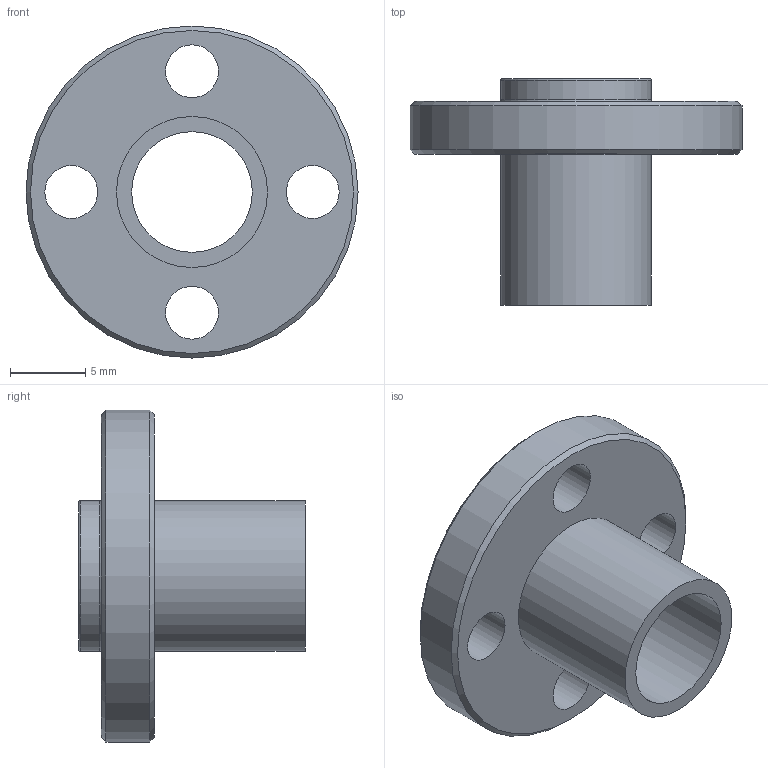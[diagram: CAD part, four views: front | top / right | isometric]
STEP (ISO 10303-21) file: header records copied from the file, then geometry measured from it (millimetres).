
FILE_DESCRIPTION(/* description */ (''),/* implementation_level */ '2;1');
FILE_NAME(/* name */ 'Lead Screw nut_.step',/* time_stamp */ '2024-01-18T13:20:53+01:00',/* author */ (''),/* organization */ (''),/* preprocessor_version */ 'ST-DEVELOPER v20',/* originating_system */ 'Autodesk Translation Framework v12.14.0.127',/* authorisation */ '');
FILE_SCHEMA (('AUTOMOTIVE_DESIGN { 1 0 10303 214 3 1 1 }'));
Length unit declared in the file: millimetre
Products named in the file (1): Lead Screw nut
Bounding box: 22 x 15 x 22 mm (x, y, z)
Volume: 1338.8 mm3; surface area: 1689.7 mm2
Topology: 1 solids, 1 shells, 16 faces, 34 edges, 22 vertices
Faces by surface type: cylinder 8, plane 4, torus 2, cone 2
Full cylindrical faces by diameter (mm): 3.5 x4, 8 x1, 10 x2, 22 x1
Entity records: 506 total; most frequent: DIRECTION 92, CARTESIAN_POINT 73, ORIENTED_EDGE 68, AXIS2_PLACEMENT_3D 41, EDGE_CURVE 34, EDGE_LOOP 28, CIRCLE 24, VERTEX_POINT 22
